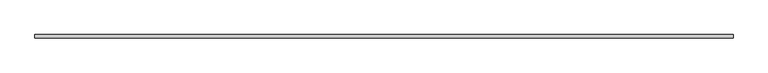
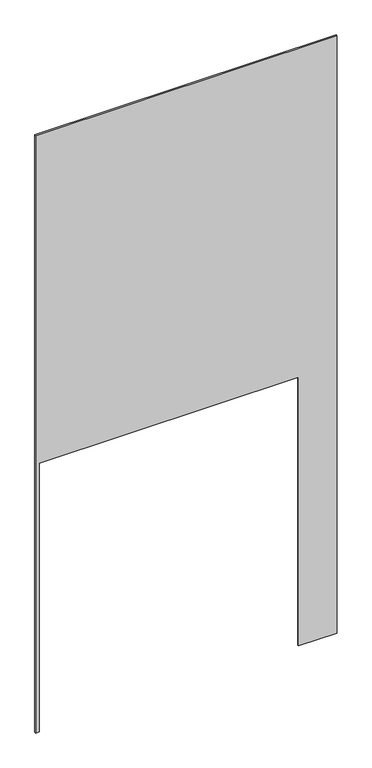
"""IFC4 building model written with IfcOpenShell, lengths in millimetres: plate geometry, システム パネル : 標準."""

from ifc_helpers import new_model, si_unit, frame, origin, place, context, project, spatial, polyline, outline, extrude, source, transform, mapped, element, save


def plate_5bdd5470(model_context):
    return source(origin(), model_context, "Body", "SweptSolid", [
        extrude(outline(polyline([(0.0, -1075.0), (0.0, -1050.0), (2025.0, -1050.0), (2025.0, 800.0), (0.0, 800.0), (0.0, 1075.0), (4500.0, 1075.0), (4500.0, -1075.0), (0.0, -1075.0)])), frame((0.0, -5.0, 0.0), z_axis=(0.0, 1.0, 0.0), x_axis=(0.0, 0.0, 1.0)), (0.0, 0.0, 1.0), 10.0),
    ])


if __name__ == "__main__":
    model = new_model("IFC4")
    model_context = context("Model", 3, world=origin())
    ifc_project = project(units=[si_unit("LENGTHUNIT", "METRE", prefix="MILLI")], contexts=[model_context])
    site = spatial("IfcSite", under=ifc_project)
    building = spatial("IfcBuilding", under=site)
    placement = place(None, origin())
    plate_shape = plate_5bdd5470(model_context)
    element("IfcPlate", 1, ObjectType="システム パネル : 標準", at=placement, inside=building, context=model_context, shape_type="MappedRepresentation", body=[
        mapped(plate_shape, transform((0.0, 0.0, 0.0), x_axis=(1.0, 0.0, 0.0), y_axis=(0.0, 1.0, 0.0), z_axis=(0.0, 0.0, 1.0))),
    ])
    save(model, "model.ifc")
